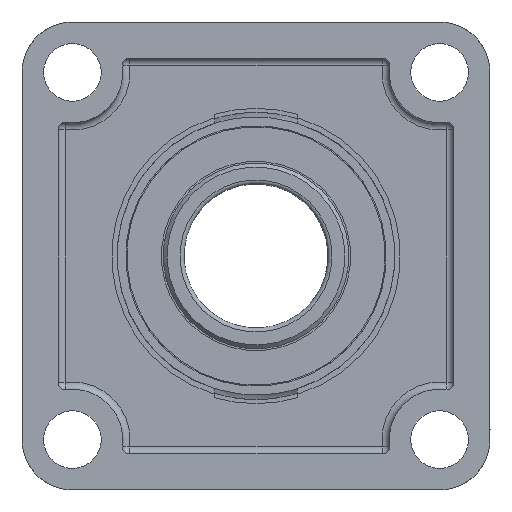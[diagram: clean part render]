
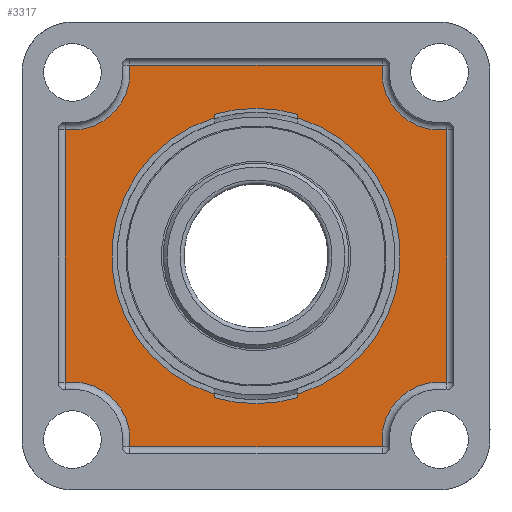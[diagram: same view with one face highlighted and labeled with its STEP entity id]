
A CAD part, front view. The second image highlights one B-rep face of the part: STEP entity #3317.
In plain terms, the highlighted planar face has unit normal (0, -1, 0).
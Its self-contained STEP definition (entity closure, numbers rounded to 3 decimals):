
#283=FACE_BOUND('',#586,.T.);
#389=FACE_OUTER_BOUND('',#585,.T.);
#585=EDGE_LOOP('',(#2238,#2239,#2240,#2241,#2242,#2243,#2244,#2245));
#586=EDGE_LOOP('',(#2246,#2247,#2248,#2249,#2250,#2251,#2252,#2253));
#812=CIRCLE('',#3691,41.);
#815=CIRCLE('',#3696,16.);
#816=CIRCLE('',#3697,16.);
#817=CIRCLE('',#3698,16.);
#818=CIRCLE('',#3699,16.);
#819=CIRCLE('',#3700,40.097);
#820=CIRCLE('',#3701,41.);
#821=CIRCLE('',#3702,40.097);
#1108=LINE('',#5374,#1234);
#1116=LINE('',#5394,#1242);
#1117=LINE('',#5403,#1243);
#1118=LINE('',#5407,#1244);
#1119=LINE('',#5411,#1245);
#1120=LINE('',#5415,#1246);
#1121=LINE('',#5420,#1247);
#1122=LINE('',#5424,#1248);
#1234=VECTOR('',#4210,10.);
#1242=VECTOR('',#4224,10.);
#1243=VECTOR('',#4237,10.);
#1244=VECTOR('',#4240,10.);
#1245=VECTOR('',#4243,10.);
#1246=VECTOR('',#4246,10.);
#1247=VECTOR('',#4251,10.);
#1248=VECTOR('',#4254,10.);
#1359=VERTEX_POINT('',#5370);
#1361=VERTEX_POINT('',#5373);
#1366=VERTEX_POINT('',#5384);
#1370=VERTEX_POINT('',#5392);
#1371=VERTEX_POINT('',#5401);
#1372=VERTEX_POINT('',#5402);
#1373=VERTEX_POINT('',#5404);
#1374=VERTEX_POINT('',#5406);
#1375=VERTEX_POINT('',#5408);
#1376=VERTEX_POINT('',#5410);
#1377=VERTEX_POINT('',#5412);
#1378=VERTEX_POINT('',#5414);
#1379=VERTEX_POINT('',#5417);
#1380=VERTEX_POINT('',#5419);
#1381=VERTEX_POINT('',#5421);
#1382=VERTEX_POINT('',#5423);
#1702=EDGE_CURVE('',#1361,#1359,#1108,.T.);
#1712=EDGE_CURVE('',#1366,#1370,#1116,.T.);
#1713=EDGE_CURVE('',#1370,#1361,#812,.T.);
#1716=EDGE_CURVE('',#1371,#1372,#1117,.T.);
#1717=EDGE_CURVE('',#1373,#1371,#815,.T.);
#1718=EDGE_CURVE('',#1374,#1373,#1118,.T.);
#1719=EDGE_CURVE('',#1375,#1374,#816,.T.);
#1720=EDGE_CURVE('',#1376,#1375,#1119,.T.);
#1721=EDGE_CURVE('',#1377,#1376,#817,.T.);
#1722=EDGE_CURVE('',#1378,#1377,#1120,.T.);
#1723=EDGE_CURVE('',#1372,#1378,#818,.T.);
#1724=EDGE_CURVE('',#1379,#1359,#819,.T.);
#1725=EDGE_CURVE('',#1379,#1380,#1121,.T.);
#1726=EDGE_CURVE('',#1380,#1381,#820,.T.);
#1727=EDGE_CURVE('',#1381,#1382,#1122,.T.);
#1728=EDGE_CURVE('',#1366,#1382,#821,.T.);
#2238=ORIENTED_EDGE('',*,*,#1716,.F.);
#2239=ORIENTED_EDGE('',*,*,#1717,.F.);
#2240=ORIENTED_EDGE('',*,*,#1718,.F.);
#2241=ORIENTED_EDGE('',*,*,#1719,.F.);
#2242=ORIENTED_EDGE('',*,*,#1720,.F.);
#2243=ORIENTED_EDGE('',*,*,#1721,.F.);
#2244=ORIENTED_EDGE('',*,*,#1722,.F.);
#2245=ORIENTED_EDGE('',*,*,#1723,.F.);
#2246=ORIENTED_EDGE('',*,*,#1712,.T.);
#2247=ORIENTED_EDGE('',*,*,#1713,.T.);
#2248=ORIENTED_EDGE('',*,*,#1702,.T.);
#2249=ORIENTED_EDGE('',*,*,#1724,.F.);
#2250=ORIENTED_EDGE('',*,*,#1725,.T.);
#2251=ORIENTED_EDGE('',*,*,#1726,.T.);
#2252=ORIENTED_EDGE('',*,*,#1727,.T.);
#2253=ORIENTED_EDGE('',*,*,#1728,.F.);
#3255=PLANE('',#3695);
#3317=ADVANCED_FACE('',(#389,#283),#3255,.T.);
#3691=AXIS2_PLACEMENT_3D('',#5396,#4227,#4228);
#3695=AXIS2_PLACEMENT_3D('',#5400,#4235,#4236);
#3696=AXIS2_PLACEMENT_3D('',#5405,#4238,#4239);
#3697=AXIS2_PLACEMENT_3D('',#5409,#4241,#4242);
#3698=AXIS2_PLACEMENT_3D('',#5413,#4244,#4245);
#3699=AXIS2_PLACEMENT_3D('',#5416,#4247,#4248);
#3700=AXIS2_PLACEMENT_3D('',#5418,#4249,#4250);
#3701=AXIS2_PLACEMENT_3D('',#5422,#4252,#4253);
#3702=AXIS2_PLACEMENT_3D('',#5425,#4255,#4256);
#4210=DIRECTION('',(0.,0.,1.));
#4224=DIRECTION('',(0.,0.,-1.));
#4227=DIRECTION('center_axis',(0.,1.,0.));
#4228=DIRECTION('ref_axis',(0.28,0.,-0.96));
#4235=DIRECTION('center_axis',(0.,-1.,0.));
#4236=DIRECTION('ref_axis',(0.,0.,-1.));
#4237=DIRECTION('',(1.,0.,0.));
#4238=DIRECTION('center_axis',(0.,-1.,0.));
#4239=DIRECTION('ref_axis',(0.707,0.,-0.707));
#4240=DIRECTION('',(0.,0.,1.));
#4241=DIRECTION('center_axis',(0.,-1.,0.));
#4242=DIRECTION('ref_axis',(0.707,0.,0.707));
#4243=DIRECTION('',(-1.,0.,0.));
#4244=DIRECTION('center_axis',(0.,-1.,0.));
#4245=DIRECTION('ref_axis',(-0.707,0.,0.707));
#4246=DIRECTION('',(0.,0.,-1.));
#4247=DIRECTION('center_axis',(0.,-1.,0.));
#4248=DIRECTION('ref_axis',(-0.707,0.,-0.707));
#4249=DIRECTION('center_axis',(0.,-1.,0.));
#4250=DIRECTION('ref_axis',(1.,0.,0.));
#4251=DIRECTION('',(0.,0.,1.));
#4252=DIRECTION('center_axis',(0.,1.,0.));
#4253=DIRECTION('ref_axis',(0.28,0.,0.96));
#4254=DIRECTION('',(0.,0.,-1.));
#4255=DIRECTION('center_axis',(0.,-1.,0.));
#4256=DIRECTION('ref_axis',(1.,0.,0.));
#5370=CARTESIAN_POINT('',(-11.5,8.,-38.413));
#5373=CARTESIAN_POINT('',(-11.5,8.,-39.354));
#5374=CARTESIAN_POINT('',(-11.5,8.,-16.819));
#5384=CARTESIAN_POINT('',(11.5,8.,-38.413));
#5392=CARTESIAN_POINT('',(11.5,8.,-39.354));
#5394=CARTESIAN_POINT('',(11.5,8.,-19.677));
#5396=CARTESIAN_POINT('Origin',(0.,8.,0.));
#5400=CARTESIAN_POINT('Origin',(0.,8.,
0.));
#5401=CARTESIAN_POINT('',(-35.125,8.,53.));
#5402=CARTESIAN_POINT('',(35.125,8.,53.));
#5403=CARTESIAN_POINT('',(-18.792,8.,53.));
#5404=CARTESIAN_POINT('',(-53.,8.,35.125));
#5405=CARTESIAN_POINT('Origin',(-51.,8.,51.));
#5406=CARTESIAN_POINT('',(-53.,8.,-35.125));
#5407=CARTESIAN_POINT('',(-53.,8.,-18.792));
#5408=CARTESIAN_POINT('',(-35.125,8.,-53.));
#5409=CARTESIAN_POINT('Origin',(-51.,8.,-51.));
#5410=CARTESIAN_POINT('',(35.125,8.,-53.));
#5411=CARTESIAN_POINT('',(18.792,8.,-53.));
#5412=CARTESIAN_POINT('',(53.,8.,-35.125));
#5413=CARTESIAN_POINT('Origin',(51.,8.,-51.));
#5414=CARTESIAN_POINT('',(53.,8.,35.125));
#5415=CARTESIAN_POINT('',(53.,8.,18.792));
#5416=CARTESIAN_POINT('Origin',(51.,8.,51.));
#5417=CARTESIAN_POINT('',(-11.5,8.,38.413));
#5418=CARTESIAN_POINT('Origin',(0.,8.,
0.));
#5419=CARTESIAN_POINT('',(-11.5,8.,39.354));
#5420=CARTESIAN_POINT('',(-11.5,8.,16.819));
#5421=CARTESIAN_POINT('',(11.5,8.,39.354));
#5422=CARTESIAN_POINT('Origin',(0.,8.,0.));
#5423=CARTESIAN_POINT('',(11.5,8.,38.413));
#5424=CARTESIAN_POINT('',(11.5,8.,19.677));
#5425=CARTESIAN_POINT('Origin',(0.,8.,
0.));
